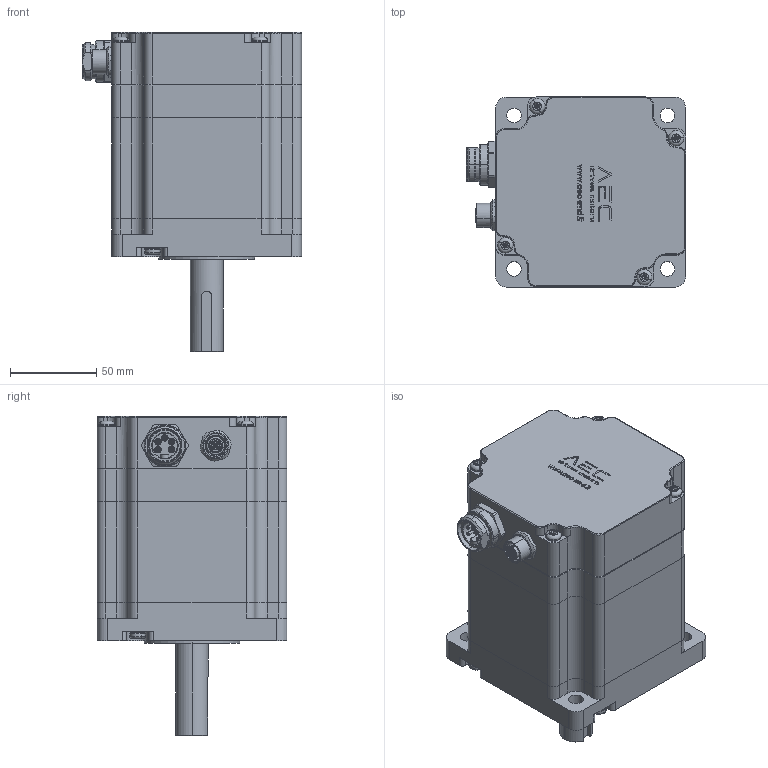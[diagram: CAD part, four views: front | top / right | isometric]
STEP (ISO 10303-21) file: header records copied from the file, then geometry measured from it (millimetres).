
FILE_DESCRIPTION (( 'STEP AP214' ), '1' );
FILE_NAME ('M110SH99-TO0512P24C.STEP', '2025-05-24T08:52:47', ( '' ), ( '' ), 'SwSTEP 2.0', 'SolidWorks 2019', '' );
FILE_SCHEMA (( 'AUTOMOTIVE_DESIGN' ));
Length unit declared in the file: millimetre
Products named in the file (1): M110SH99-TO0512P24C
Bounding box: 127 x 110 x 185 mm (x, y, z)
Surface area: 237054.8 mm2 (no closed solid volume)
Topology: 0 solids, 48 shells, 1963 faces, 5078 edges, 3230 vertices
Faces by surface type: plane 727, cylinder 568, bspline 373, cone 161, torus 134
Entity records: 97521 total; most frequent: CARTESIAN_POINT 31630, ORIENTED_EDGE 9924, DIRECTION 7744, EDGE_CURVE 4966, VERTEX_POINT 3230, AXIS2_PLACEMENT_3D 2922, EDGE_LOOP 2206, UNCERTAINTY_MEASURE_WITH_UNIT 2010
